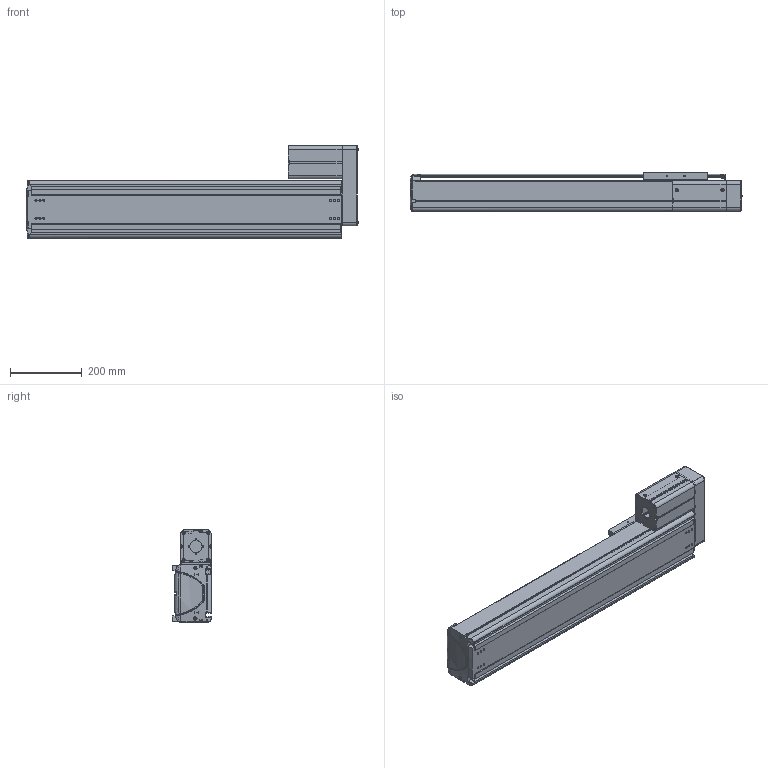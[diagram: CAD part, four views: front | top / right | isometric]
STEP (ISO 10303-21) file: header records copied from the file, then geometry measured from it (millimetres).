
FILE_DESCRIPTION((''),'2;1');
FILE_NAME('BE50F-UR-M_N-60_IGS_PRT','2017-06-18T',(' '),(''),'PRO/ENGINEER BY PARAMETRIC TECHNOLOGY CORPORATION, 2015030','PRO/ENGINEER BY PARAMETRIC TECHNOLOGY CORPORATION, 2015030','');
FILE_SCHEMA(('CONFIG_CONTROL_DESIGN'));
Length unit declared in the file: millimetre
Products named in the file (1): BE50F-UR-M_N-60_IGS_PRT
Bounding box: 925.88 x 110 x 257 mm (x, y, z)
Volume: 4523611.5 mm3; surface area: 1669375.1 mm2
Topology: 2 solids, 119 shells, 2159 faces, 5835 edges, 3805 vertices
Faces by surface type: plane 1004, cylinder 899, cone 117, torus 59, bspline 48, sphere 32
Entity records: 71045 total; most frequent: CARTESIAN_POINT 16037, DIRECTION 11562, ORIENTED_EDGE 11156, EDGE_CURVE 5798, AXIS2_PLACEMENT_3D 4109, VERTEX_POINT 3804, VECTOR 3344, LINE 3344
